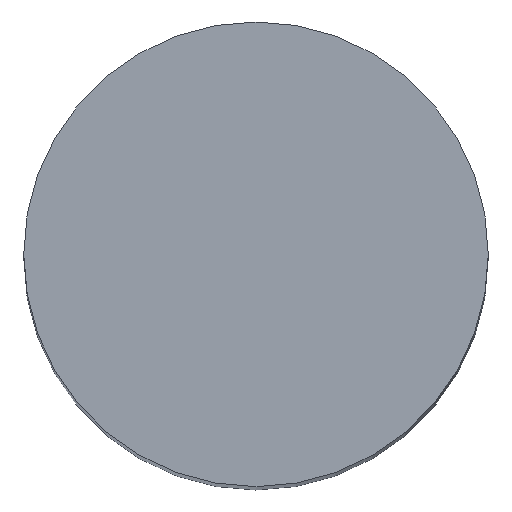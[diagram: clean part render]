
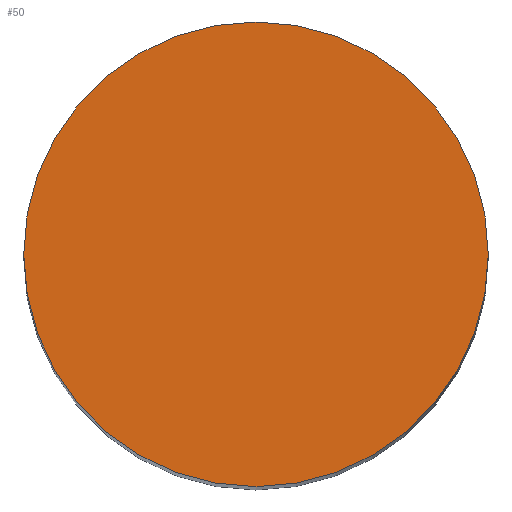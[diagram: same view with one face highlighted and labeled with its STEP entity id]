
A CAD part, top view. The second image highlights one B-rep face of the part: STEP entity #50.
In plain terms, the highlighted planar face has unit normal (0, 0, 1).
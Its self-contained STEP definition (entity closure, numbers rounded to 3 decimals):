
#21 = EDGE_CURVE('',#22,#22,#24,.T.);
#22 = VERTEX_POINT('',#23);
#23 = CARTESIAN_POINT('',(3.,0.,28.));
#24 = CIRCLE('',#25,3.);
#25 = AXIS2_PLACEMENT_3D('',#26,#27,#28);
#26 = CARTESIAN_POINT('',(0.,0.,28.));
#27 = DIRECTION('',(0.,0.,1.));
#28 = DIRECTION('',(1.,0.,-0.));
#50 = ADVANCED_FACE('',(#51),#54,.T.);
#51 = FACE_BOUND('',#52,.T.);
#52 = EDGE_LOOP('',(#53));
#53 = ORIENTED_EDGE('',*,*,#21,.T.);
#54 = PLANE('',#55);
#55 = AXIS2_PLACEMENT_3D('',#56,#57,#58);
#56 = CARTESIAN_POINT('',(0.,0.,28.));
#57 = DIRECTION('',(0.,0.,1.));
#58 = DIRECTION('',(1.,0.,-0.));
